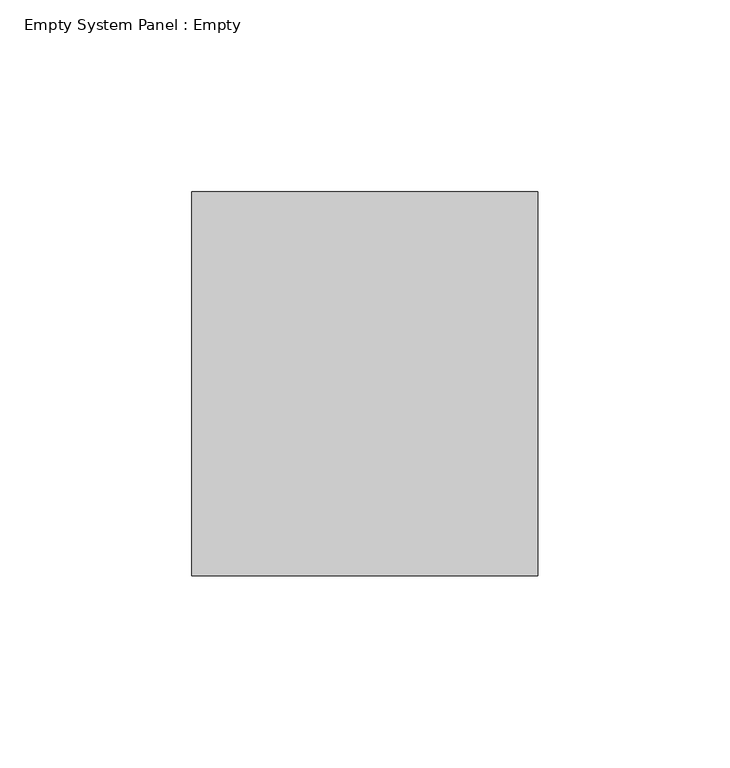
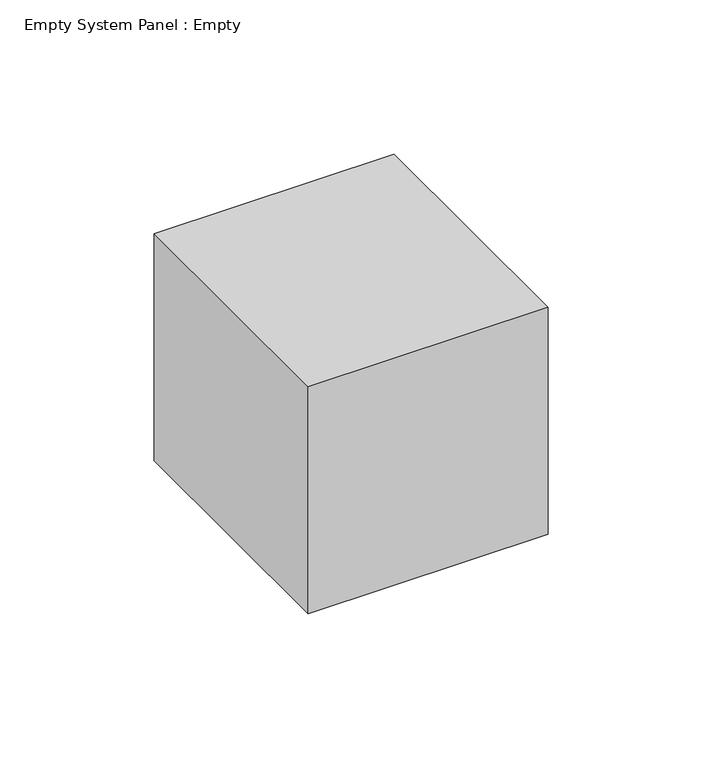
"""IFC4 building model written with IfcOpenShell, lengths in millimetres: plate geometry, Empty System Panel : Empty."""

from ifc_helpers import new_model, si_unit, origin, origin_with_axes, place, context, project, spatial, polyline, outline, extrude, source, transform, mapped, element, save


def empty_system_panel_empty_e4510abc(model_context):
    return source(origin(), model_context, "Body", "SweptSolid", [
        extrude(outline(polyline([(45.0000002, 50.0), (-45.0000002, 50.0), (-45.0000002, 150.0), (45.0000002, 150.0), (45.0000002, 50.0)])), origin_with_axes(), (0.0, 0.0, 1.0), 90.0),
    ])


if __name__ == "__main__":
    model = new_model("IFC4")
    model_context = context("Model", 3, world=origin())
    ifc_project = project(units=[si_unit("LENGTHUNIT", "METRE", prefix="MILLI")], contexts=[model_context])
    site = spatial("IfcSite", under=ifc_project)
    building = spatial("IfcBuilding", under=site)
    placement = place(None, origin())
    empty_system_panel_empty_shape = empty_system_panel_empty_e4510abc(model_context)
    element("IfcPlate", 1, ObjectType="Empty System Panel : Empty", at=placement, inside=building, context=model_context, shape_type="MappedRepresentation", body=[
        mapped(empty_system_panel_empty_shape, transform((0.0, 0.0, 0.0), x_axis=(1.0, 0.0, 0.0), y_axis=(0.0, 1.0, 0.0), z_axis=(0.0, 0.0, 1.0))),
    ])
    save(model, "model.ifc")
